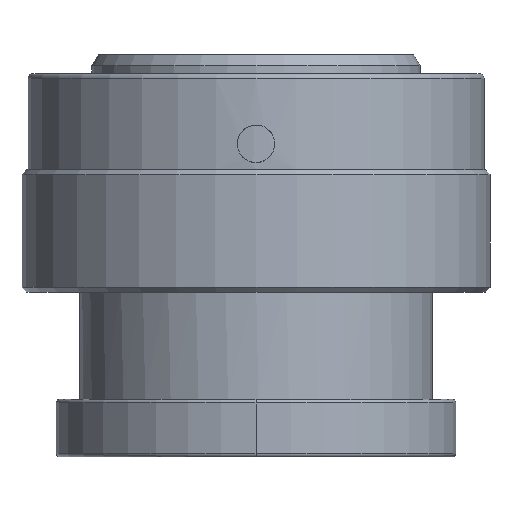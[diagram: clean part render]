
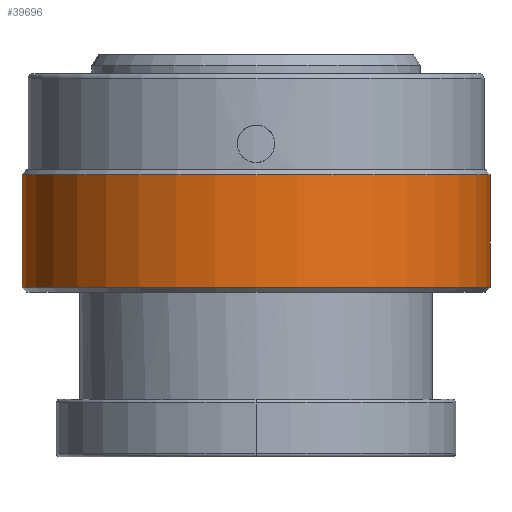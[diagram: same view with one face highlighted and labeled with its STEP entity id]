
A CAD part, left-side view. The second image highlights one B-rep face of the part: STEP entity #39696.
In plain terms, the highlighted cylindrical face has radius 24.765 mm (diameter 49.53 mm), a partial arc.
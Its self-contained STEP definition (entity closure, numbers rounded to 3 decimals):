
#14589=CARTESIAN_POINT('',(0.,0.,-10.668));
#14590=DIRECTION('',(0.,0.,1.));
#14591=DIRECTION('',(0.,1.,0.));
#14592=AXIS2_PLACEMENT_3D('',#14589,#14590,#14591);
#14594=DIRECTION('',(0.,0.,1.));
#14595=VECTOR('',#14594,11.938);
#14596=CARTESIAN_POINT('',(0.,-24.765,-22.606));
#14597=LINE('',#14596,#14595);
#14598=CARTESIAN_POINT('',(0.,0.,-22.606));
#14599=DIRECTION('',(0.,0.,1.));
#14600=DIRECTION('',(0.,1.,0.));
#14601=AXIS2_PLACEMENT_3D('',#14598,#14599,#14600);
#14603=DIRECTION('',(0.,0.,1.));
#14604=VECTOR('',#14603,11.938);
#14605=CARTESIAN_POINT('',(0.,24.765,-22.606));
#14606=LINE('',#14605,#14604);
#15021=CARTESIAN_POINT('',(0.,-24.765,-10.668));
#15022=CARTESIAN_POINT('',(0.,24.765,-10.668));
#15023=VERTEX_POINT('',#15021);
#15024=VERTEX_POINT('',#15022);
#15025=CARTESIAN_POINT('',(0.,-24.765,-22.606));
#15026=CARTESIAN_POINT('',(0.,24.765,-22.606));
#15027=VERTEX_POINT('',#15025);
#15028=VERTEX_POINT('',#15026);
#39684=CARTESIAN_POINT('',(0.,0.,1.156));
#39685=DIRECTION('',(0.,0.,-1.));
#39686=DIRECTION('',(0.,-1.,0.));
#39687=AXIS2_PLACEMENT_3D('',#39684,#39685,#39686);
#39688=CYLINDRICAL_SURFACE('',#39687,24.765);
#39689=ORIENTED_EDGE('',*,*,#39678,.T.);
#39690=ORIENTED_EDGE('',*,*,#24563,.F.);
#39692=ORIENTED_EDGE('',*,*,#39691,.F.);
#39693=ORIENTED_EDGE('',*,*,#24560,.T.);
#39694=EDGE_LOOP('',(#39689,#39690,#39692,#39693));
#39695=FACE_OUTER_BOUND('',#39694,.F.);
#39696=ADVANCED_FACE('',(#39695),#39688,.T.);
#14593=CIRCLE('',#14592,24.765);
#14602=CIRCLE('',#14601,24.765);
#24560=EDGE_CURVE('',#15028,#15024,#14606,.T.);
#24563=EDGE_CURVE('',#15027,#15023,#14597,.T.);
#39678=EDGE_CURVE('',#15024,#15023,#14593,.T.);
#39691=EDGE_CURVE('',#15028,#15027,#14602,.T.);
